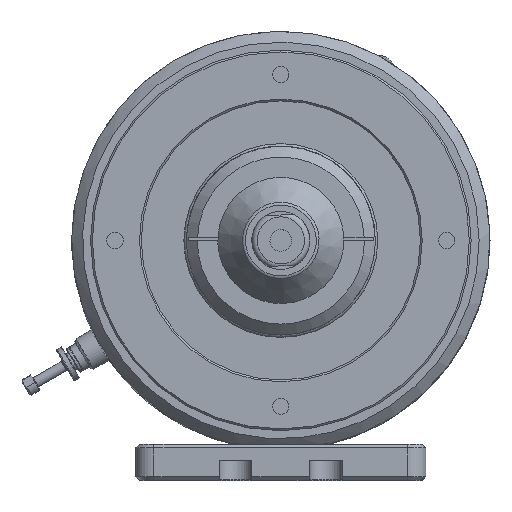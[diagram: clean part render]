
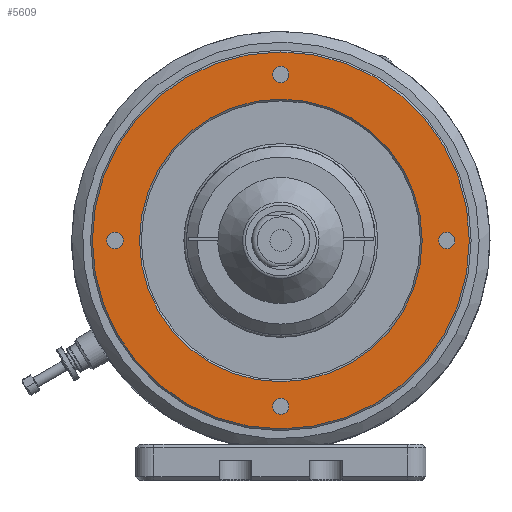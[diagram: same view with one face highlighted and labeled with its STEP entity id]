
A CAD part, top view. The second image highlights one B-rep face of the part: STEP entity #5609.
In plain terms, the highlighted planar face has unit normal (0, 0, 1).
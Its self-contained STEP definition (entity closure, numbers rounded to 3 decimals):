
#318=FACE_BOUND($,#1896,.T.);
#319=FACE_BOUND($,#1897,.T.);
#320=FACE_BOUND($,#1898,.T.);
#321=FACE_BOUND($,#1899,.T.);
#322=FACE_BOUND($,#1900,.T.);
#323=FACE_BOUND($,#1901,.T.);
#1067=PLANE($,#6239);
#1896=EDGE_LOOP($,(#4766));
#1897=EDGE_LOOP($,(#4767));
#1898=EDGE_LOOP($,(#4768));
#1899=EDGE_LOOP($,(#4769));
#1900=EDGE_LOOP($,(#4770));
#1901=EDGE_LOOP($,(#4771));
#2362=CIRCLE($,#6238,52.);
#2363=CIRCLE($,#6240,39.);
#2364=CIRCLE($,#6241,2.25);
#2365=CIRCLE($,#6242,2.25);
#2366=CIRCLE($,#6243,2.25);
#2367=CIRCLE($,#6244,2.25);
#2843=VERTEX_POINT($,#10351);
#2844=VERTEX_POINT($,#10354);
#2845=VERTEX_POINT($,#10356);
#2846=VERTEX_POINT($,#10358);
#2847=VERTEX_POINT($,#10360);
#2848=VERTEX_POINT($,#10362);
#3507=EDGE_CURVE($,#2843,#2843,#2362,.T.);
#3508=EDGE_CURVE($,#2844,#2844,#2363,.T.);
#3509=EDGE_CURVE($,#2845,#2845,#2364,.T.);
#3510=EDGE_CURVE($,#2846,#2846,#2365,.T.);
#3511=EDGE_CURVE($,#2847,#2847,#2366,.T.);
#3512=EDGE_CURVE($,#2848,#2848,#2367,.T.);
#4766=ORIENTED_EDGE($,*,*,#3508,.F.);
#4767=ORIENTED_EDGE($,*,*,#3509,.T.);
#4768=ORIENTED_EDGE($,*,*,#3510,.T.);
#4769=ORIENTED_EDGE($,*,*,#3511,.T.);
#4770=ORIENTED_EDGE($,*,*,#3512,.T.);
#4771=ORIENTED_EDGE($,*,*,#3507,.F.);
#5609=ADVANCED_FACE($,(#318,#319,#320,#321,#322,#323),#1067,.T.);
#6238=AXIS2_PLACEMENT_3D($,#10352,#7733,#7734);
#6239=AXIS2_PLACEMENT_3D($,#10353,#7735,#7736);
#6240=AXIS2_PLACEMENT_3D($,#10355,#7737,#7738);
#6241=AXIS2_PLACEMENT_3D($,#10357,#7739,#7740);
#6242=AXIS2_PLACEMENT_3D($,#10359,#7741,#7742);
#6243=AXIS2_PLACEMENT_3D($,#10361,#7743,#7744);
#6244=AXIS2_PLACEMENT_3D($,#10363,#7745,#7746);
#7733=DIRECTION('center_axis',(0.,0.,
-1.));
#7734=DIRECTION('ref_axis',(0.,1.,0.));
#7735=DIRECTION('center_axis',(0.,0.,
1.));
#7736=DIRECTION('ref_axis',(0.,-1.,0.));
#7737=DIRECTION('center_axis',(0.,0.,
1.));
#7738=DIRECTION('ref_axis',(0.,1.,0.));
#7739=DIRECTION('center_axis',(0.,0.,
-1.));
#7740=DIRECTION('ref_axis',(0.,-1.,0.));
#7741=DIRECTION('center_axis',(0.,0.,
-1.));
#7742=DIRECTION('ref_axis',(0.,-1.,0.));
#7743=DIRECTION('center_axis',(0.,0.,
-1.));
#7744=DIRECTION('ref_axis',(0.,-1.,0.));
#7745=DIRECTION('center_axis',(0.,0.,
-1.));
#7746=DIRECTION('ref_axis',(0.,-1.,0.));
#10351=CARTESIAN_POINT('',(0.,-52.,17.055));
#10352=CARTESIAN_POINT('Origin',(0.,0.,
17.055));
#10353=CARTESIAN_POINT('Origin',(0.,0.,
17.055));
#10354=CARTESIAN_POINT('',(0.,-39.,17.055));
#10355=CARTESIAN_POINT('Origin',(0.,0.,
17.055));
#10356=CARTESIAN_POINT('',(-45.75,-2.25,17.055));
#10357=CARTESIAN_POINT('Origin',(-45.75,0.,17.055));
#10358=CARTESIAN_POINT('',(45.75,-2.25,17.055));
#10359=CARTESIAN_POINT('Origin',(45.75,0.,17.055));
#10360=CARTESIAN_POINT('',(0.,-48.,17.055));
#10361=CARTESIAN_POINT('Origin',(0.,-45.75,17.055));
#10362=CARTESIAN_POINT('',(0.,43.5,17.055));
#10363=CARTESIAN_POINT('Origin',(0.,45.75,17.055));
